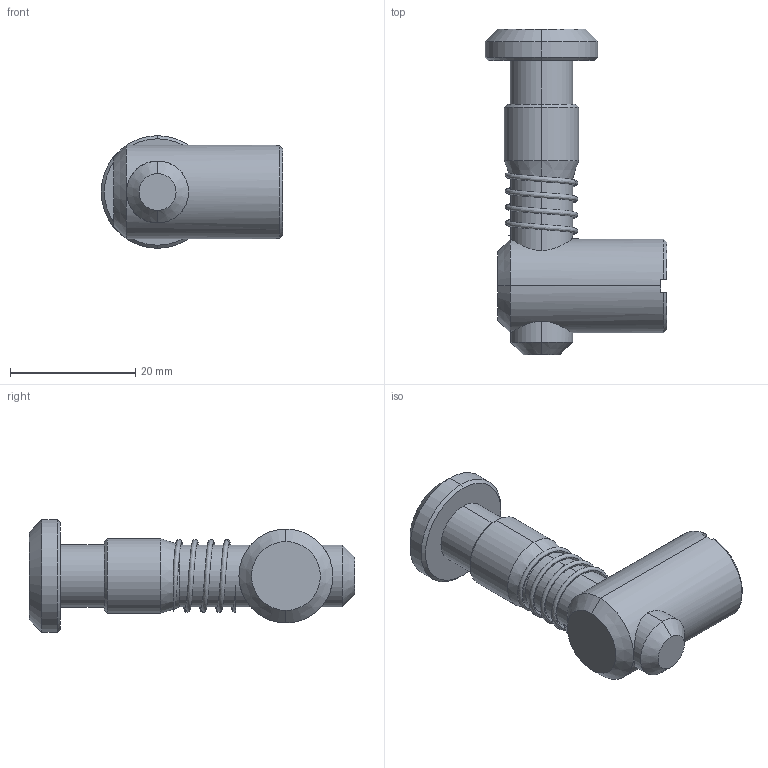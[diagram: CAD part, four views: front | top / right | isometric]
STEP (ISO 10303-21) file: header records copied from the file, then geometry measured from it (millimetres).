
FILE_DESCRIPTION (( 'STEP AP214' ), '1' );
FILE_NAME ('2.04.spuc.STEP', '2015-05-30T09:41:43', ( '' ), ( '' ), 'SwSTEP 2.0', 'SolidWorks 2015', '' );
FILE_SCHEMA (( 'AUTOMOTIVE_DESIGN' ));
Length unit declared in the file: millimetre
Products named in the file (1): 2.04.spuc
Bounding box: 29 x 52 x 18 mm (x, y, z)
Surface area: 4857.4 mm2 (no closed solid volume)
Topology: 0 solids, 4 shells, 62 faces, 147 edges, 91 vertices
Faces by surface type: plane 28, cone 18, cylinder 14, bspline 2
Entity records: 3717 total; most frequent: CARTESIAN_POINT 2275, DIRECTION 289, ORIENTED_EDGE 282, EDGE_CURVE 145, AXIS2_PLACEMENT_3D 107, VERTEX_POINT 91, LINE 75, VECTOR 75
